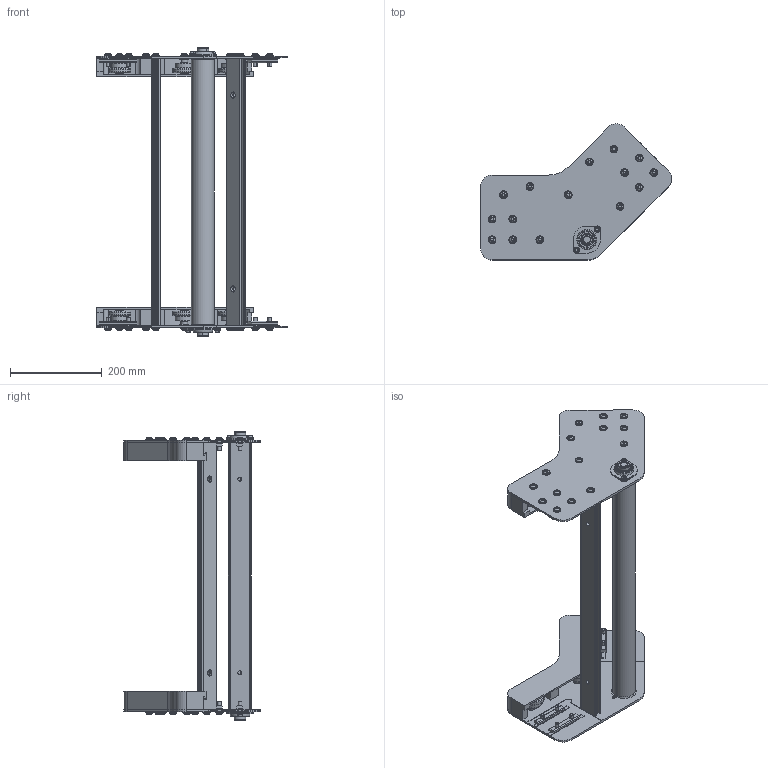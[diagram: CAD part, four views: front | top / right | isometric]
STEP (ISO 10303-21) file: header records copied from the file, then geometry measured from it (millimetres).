
FILE_DESCRIPTION (( 'STEP AP214' ), '1' );
FILE_NAME ('084.095.KA.45.550.STEP', '2020-09-09T08:04:20', ( 'Localadmin' ), ( 'Microsoft' ), 'SwSTEP 2.0', 'SolidWorks 2018', '' );
FILE_SCHEMA (( 'AUTOMOTIVE_DESIGN' ));
Length unit declared in the file: millimetre
Products named in the file (17): 084.821.103; 084.821.123; 084.821.122; 084.101.004_KA.45.550_Default<A macchina>; 084.821.126_Default<A macchina>; 084.095.KA.45.550; RONDELLE UNI 6592_6.4x12.5 UNI 6592; VITI TESTA BOMBATA ISO 730 INOX_M6x10 ISO 7380 INOX; RONDELLE UNI 6592_8.4x17 UNI 6592; VITI TESTA BOMBATA ISO 730 INOX_M8x25 ISO 7380 INOX; Circlip DIN 471 - 15 x 1_Circlip DIN 471 - 15 x 1; SBPFL 203; CUSCINETTI A SFERE_6002-2Z; 084.811.004; 084.302.016; 084.821.102; 084.821.105
Assembly tree (129 placements, depth 2):
  084.095.KA.45.550
    084.821.126_Default<A macchina>
    084.101.004_KA.45.550_Default<A macchina>  x2
    084.821.122  x2
    084.821.123  x2
    084.821.103  x6
    084.821.105  x6
    084.821.102  x6
    084.302.016  x8
    084.811.004  x2
    CUSCINETTI A SFERE_6002-2Z  x12
    SBPFL 203  x2
    Circlip DIN 471 - 15 x 1_Circlip DIN 471 - 15 x 1  x12
    VITI TESTA BOMBATA ISO 730 INOX_M8x25 ISO 7380 INOX  x30
    RONDELLE UNI 6592_8.4x17 UNI 6592  x30
    VITI TESTA BOMBATA ISO 730 INOX_M6x10 ISO 7380 INOX  x4
    RONDELLE UNI 6592_6.4x12.5 UNI 6592  x4
Bounding box: 416.33 x 297.14 x 631 mm (x, y, z)
Volume: 2665178.2 mm3; surface area: 1263944.3 mm2
Topology: 133 solids, 133 shells, 2491 faces, 5873 edges, 3800 vertices
Faces by surface type: plane 1056, cylinder 1011, cone 208, torus 196, sphere 20
Entity records: 19006 total; most frequent: DIRECTION 3356, CARTESIAN_POINT 3298, ORIENTED_EDGE 2832, EDGE_CURVE 1416, AXIS2_PLACEMENT_3D 1282, VERTEX_POINT 928, VECTOR 792, LINE 792
